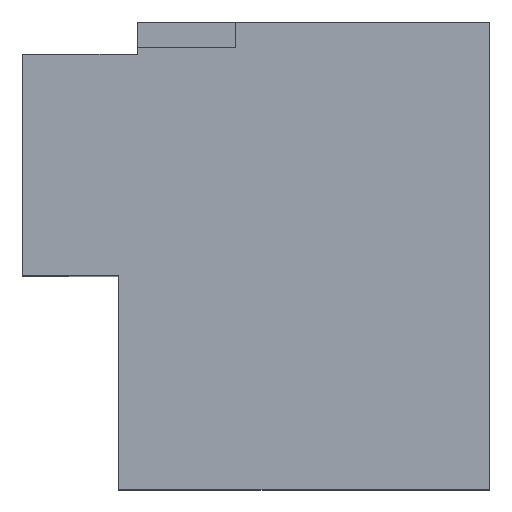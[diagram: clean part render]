
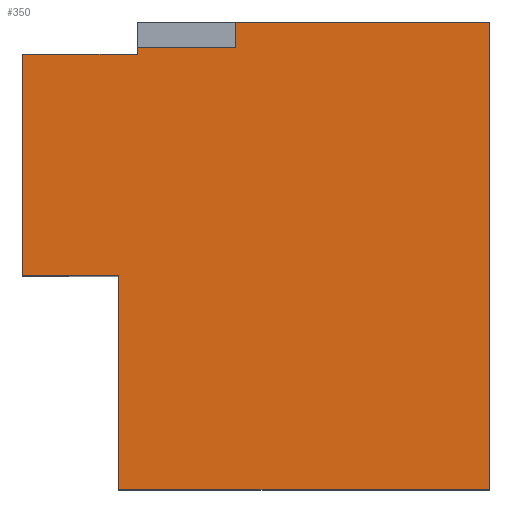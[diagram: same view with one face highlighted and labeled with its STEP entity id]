
A CAD part, top view. The second image highlights one B-rep face of the part: STEP entity #350.
In plain terms, the highlighted planar face has unit normal (0, 0, 1).
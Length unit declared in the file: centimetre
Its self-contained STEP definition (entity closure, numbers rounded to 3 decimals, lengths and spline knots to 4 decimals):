
#1 = DIRECTION ( 'NONE',  ( 0., 1., 0. ) ) ;
#2 = EDGE_CURVE ( 'NONE', #923, #777, #1000, .T. ) ;
#12 = DIRECTION ( 'NONE',  ( 0., 0., 1. ) ) ;
#36 = EDGE_CURVE ( 'NONE', #377, #117, #834, .T. ) ;
#59 = LINE ( 'NONE', #311, #628 ) ;
#69 = DIRECTION ( 'NONE',  ( 0., -1., 0. ) ) ;
#79 = CARTESIAN_POINT ( 'NONE',  ( 455.7021, 946.4396, 1000. ) ) ;
#86 = VECTOR ( 'NONE', #565, 100. ) ;
#89 = EDGE_CURVE ( 'NONE', #724, #324, #59, .T. ) ;
#113 = VERTEX_POINT ( 'NONE', #321 ) ;
#117 = VERTEX_POINT ( 'NONE', #393 ) ;
#141 = VERTEX_POINT ( 'NONE', #783 ) ;
#156 = DIRECTION ( 'NONE',  ( 1., 0., 0. ) ) ;
#185 = FACE_OUTER_BOUND ( 'NONE', #361, .T. ) ;
#187 = ORIENTED_EDGE ( 'NONE', *, *, #2, .F. ) ;
#192 = ORIENTED_EDGE ( 'NONE', *, *, #653, .T. ) ;
#198 = EDGE_CURVE ( 'NONE', #324, #549, #468, .T. ) ;
#213 = ORIENTED_EDGE ( 'NONE', *, *, #764, .F. ) ;
#233 = EDGE_CURVE ( 'NONE', #117, #141, #938, .T. ) ;
#247 = CARTESIAN_POINT ( 'NONE',  ( 245.8957, 1000., 1000. ) ) ;
#263 = VECTOR ( 'NONE', #156, 100. ) ;
#280 = CARTESIAN_POINT ( 'NONE',  ( 205.9573, 456.7023, 1000. ) ) ;
#286 = CARTESIAN_POINT ( 'NONE',  ( 0., 456.7023, 1000. ) ) ;
#294 = CARTESIAN_POINT ( 'NONE',  ( 236.6432, 946.4396, 1000. ) ) ;
#296 = ORIENTED_EDGE ( 'NONE', *, *, #919, .F. ) ;
#307 = VERTEX_POINT ( 'NONE', #880 ) ;
#311 = CARTESIAN_POINT ( 'NONE',  ( 245.8957, 931.3752, 1000. ) ) ;
#312 = LINE ( 'NONE', #380, #576 ) ;
#321 = CARTESIAN_POINT ( 'NONE',  ( 455.7021, 1000., 1000. ) ) ;
#324 = VERTEX_POINT ( 'NONE', #802 ) ;
#332 = LINE ( 'NONE', #247, #357 ) ;
#350 = ADVANCED_FACE ( 'NONE', ( #185 ), #721, .T. ) ;
#357 = VECTOR ( 'NONE', #792, 100. ) ;
#361 = EDGE_LOOP ( 'NONE', ( #907, #936, #755, #192, #213, #187, #296, #383, #467, #464 ) ) ;
#363 = AXIS2_PLACEMENT_3D ( 'NONE', #728, #12, #972 ) ;
#377 = VERTEX_POINT ( 'NONE', #280 ) ;
#380 = CARTESIAN_POINT ( 'NONE',  ( 0., 1000., 1000. ) ) ;
#383 = ORIENTED_EDGE ( 'NONE', *, *, #89, .T. ) ;
#387 = VECTOR ( 'NONE', #69, 100. ) ;
#393 = CARTESIAN_POINT ( 'NONE',  ( 205.9573, 0., 1000. ) ) ;
#403 = LINE ( 'NONE', #79, #594 ) ;
#450 = EDGE_CURVE ( 'NONE', #377, #549, #756, .T. ) ;
#451 = DIRECTION ( 'NONE',  ( -1., 0., 0. ) ) ;
#464 = ORIENTED_EDGE ( 'NONE', *, *, #450, .F. ) ;
#467 = ORIENTED_EDGE ( 'NONE', *, *, #198, .T. ) ;
#468 = LINE ( 'NONE', #557, #86 ) ;
#525 = CARTESIAN_POINT ( 'NONE',  ( 205.9573, 456.7023, 1000. ) ) ;
#549 = VERTEX_POINT ( 'NONE', #740 ) ;
#551 = CARTESIAN_POINT ( 'NONE',  ( 455.7021, 946.4396, 1000. ) ) ;
#557 = CARTESIAN_POINT ( 'NONE',  ( 0., 1000., 1000. ) ) ;
#561 = VECTOR ( 'NONE', #596, 100. ) ;
#565 = DIRECTION ( 'NONE',  ( 0., -1., 0. ) ) ;
#576 = VECTOR ( 'NONE', #766, 100. ) ;
#594 = VECTOR ( 'NONE', #946, 100. ) ;
#596 = DIRECTION ( 'NONE',  ( -1., 0., 0. ) ) ;
#621 = CARTESIAN_POINT ( 'NONE',  ( 245.8957, 931.3752, 1000. ) ) ;
#628 = VECTOR ( 'NONE', #451, 100. ) ;
#638 = CARTESIAN_POINT ( 'NONE',  ( 0., 0., 1000. ) ) ;
#653 = EDGE_CURVE ( 'NONE', #307, #113, #312, .T. ) ;
#711 = CARTESIAN_POINT ( 'NONE',  ( 1000., 1000., 1000. ) ) ;
#721 = PLANE ( 'NONE',  #363 ) ;
#724 = VERTEX_POINT ( 'NONE', #621 ) ;
#728 = CARTESIAN_POINT ( 'NONE',  ( 0., 0., 1000. ) ) ;
#734 = VECTOR ( 'NONE', #750, 100. ) ;
#740 = CARTESIAN_POINT ( 'NONE',  ( 0., 456.7023, 1000. ) ) ;
#750 = DIRECTION ( 'NONE',  ( 1., 0., 0. ) ) ;
#755 = ORIENTED_EDGE ( 'NONE', *, *, #937, .T. ) ;
#756 = LINE ( 'NONE', #286, #561 ) ;
#764 = EDGE_CURVE ( 'NONE', #777, #113, #403, .T. ) ;
#766 = DIRECTION ( 'NONE',  ( -1., 0., 0. ) ) ;
#777 = VERTEX_POINT ( 'NONE', #551 ) ;
#783 = CARTESIAN_POINT ( 'NONE',  ( 1000., 0., 1000. ) ) ;
#785 = LINE ( 'NONE', #711, #941 ) ;
#792 = DIRECTION ( 'NONE',  ( 0., 1., 0. ) ) ;
#802 = CARTESIAN_POINT ( 'NONE',  ( 0., 931.3752, 1000. ) ) ;
#834 = LINE ( 'NONE', #525, #387 ) ;
#880 = CARTESIAN_POINT ( 'NONE',  ( 1000., 1000., 1000. ) ) ;
#888 = CARTESIAN_POINT ( 'NONE',  ( 245.8957, 946.4396, 1000. ) ) ;
#907 = ORIENTED_EDGE ( 'NONE', *, *, #36, .T. ) ;
#919 = EDGE_CURVE ( 'NONE', #724, #923, #332, .T. ) ;
#923 = VERTEX_POINT ( 'NONE', #888 ) ;
#936 = ORIENTED_EDGE ( 'NONE', *, *, #233, .T. ) ;
#937 = EDGE_CURVE ( 'NONE', #141, #307, #785, .T. ) ;
#938 = LINE ( 'NONE', #638, #263 ) ;
#941 = VECTOR ( 'NONE', #1, 100. ) ;
#946 = DIRECTION ( 'NONE',  ( 0., 1., 0. ) ) ;
#972 = DIRECTION ( 'NONE',  ( 1., 0., 0. ) ) ;
#1000 = LINE ( 'NONE', #294, #734 ) ;
